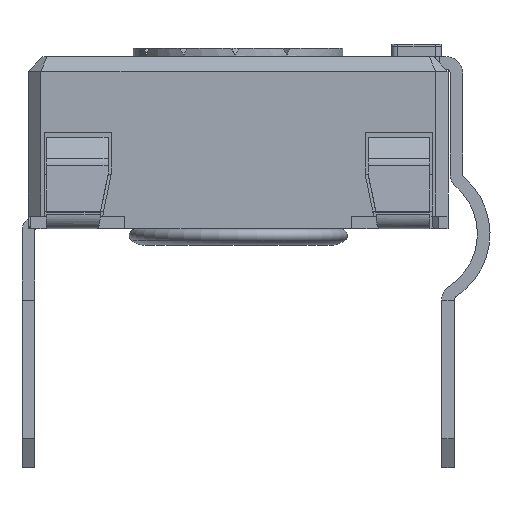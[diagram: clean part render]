
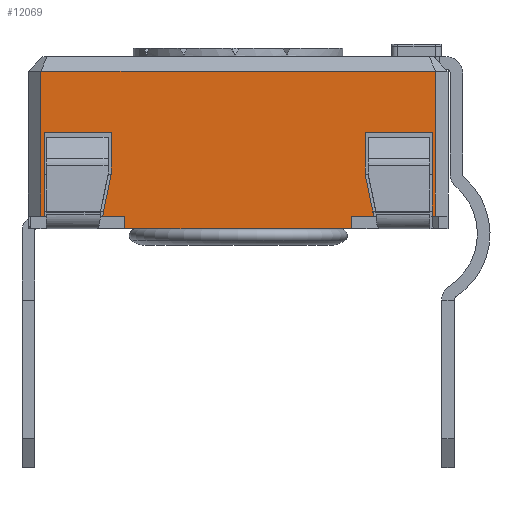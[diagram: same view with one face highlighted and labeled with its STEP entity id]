
A CAD part, left-side view. The second image highlights one B-rep face of the part: STEP entity #12069.
In plain terms, the highlighted planar face has unit normal (-1, 0, 0).
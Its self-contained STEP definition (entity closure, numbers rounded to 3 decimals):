
#977=FACE_OUTER_BOUND('',#1598,.T.);
#1598=EDGE_LOOP('',(#10152,#10153,#10154,#10155,#10156,#10157,#10158,#10159,
#10160,#10161,#10162,#10163,#10164,#10165,#10166,#10167,#10168,#10169));
#2431=LINE('',#18130,#3841);
#2462=LINE('',#18192,#3872);
#2468=LINE('',#18204,#3878);
#2489=LINE('',#18246,#3899);
#2659=LINE('',#18778,#4069);
#2702=LINE('',#18860,#4112);
#2705=LINE('',#18866,#4115);
#2854=LINE('',#19244,#4264);
#2856=LINE('',#19248,#4266);
#2860=LINE('',#19256,#4270);
#2863=LINE('',#19262,#4273);
#2870=LINE('',#19276,#4280);
#2872=LINE('',#19280,#4282);
#2878=LINE('',#19291,#4288);
#2879=LINE('',#19293,#4289);
#2880=LINE('',#19296,#4290);
#2881=LINE('',#19298,#4291);
#2882=LINE('',#19299,#4292);
#3841=VECTOR('',#14747,10.);
#3872=VECTOR('',#14782,10.);
#3878=VECTOR('',#14788,10.);
#3899=VECTOR('',#14811,10.);
#4069=VECTOR('',#15291,10.);
#4112=VECTOR('',#15366,10.);
#4115=VECTOR('',#15375,10.);
#4264=VECTOR('',#15742,10.);
#4266=VECTOR('',#15746,10.);
#4270=VECTOR('',#15752,10.);
#4273=VECTOR('',#15757,10.);
#4280=VECTOR('',#15772,10.);
#4282=VECTOR('',#15776,10.);
#4288=VECTOR('',#15788,10.);
#4289=VECTOR('',#15791,10.);
#4290=VECTOR('',#15794,10.);
#4291=VECTOR('',#15795,10.);
#4292=VECTOR('',#15796,10.);
#5145=VERTEX_POINT('',#18127);
#5146=VERTEX_POINT('',#18129);
#5174=VERTEX_POINT('',#18189);
#5175=VERTEX_POINT('',#18191);
#5180=VERTEX_POINT('',#18201);
#5181=VERTEX_POINT('',#18203);
#5200=VERTEX_POINT('',#18243);
#5201=VERTEX_POINT('',#18245);
#5353=VERTEX_POINT('',#18775);
#5354=VERTEX_POINT('',#18777);
#5473=VERTEX_POINT('',#19242);
#5474=VERTEX_POINT('',#19247);
#5477=VERTEX_POINT('',#19254);
#5479=VERTEX_POINT('',#19261);
#5482=VERTEX_POINT('',#19275);
#5483=VERTEX_POINT('',#19279);
#5486=VERTEX_POINT('',#19295);
#5487=VERTEX_POINT('',#19297);
#6541=EDGE_CURVE('',#5146,#5145,#2431,.T.);
#6572=EDGE_CURVE('',#5175,#5174,#2462,.T.);
#6578=EDGE_CURVE('',#5181,#5180,#2468,.T.);
#6599=EDGE_CURVE('',#5201,#5200,#2489,.T.);
#6847=EDGE_CURVE('',#5354,#5353,#2659,.T.);
#6890=EDGE_CURVE('',#5175,#5353,#2702,.T.);
#6893=EDGE_CURVE('',#5180,#5354,#2705,.T.);
#7079=EDGE_CURVE('',#5174,#5473,#2854,.T.);
#7081=EDGE_CURVE('',#5474,#5181,#2856,.T.);
#7085=EDGE_CURVE('',#5473,#5477,#2860,.T.);
#7088=EDGE_CURVE('',#5479,#5474,#2863,.T.);
#7095=EDGE_CURVE('',#5482,#5479,#2870,.T.);
#7097=EDGE_CURVE('',#5483,#5201,#2872,.T.);
#7103=EDGE_CURVE('',#5477,#5483,#2878,.T.);
#7104=EDGE_CURVE('',#5145,#5482,#2879,.T.);
#7105=EDGE_CURVE('',#5486,#5200,#2880,.T.);
#7106=EDGE_CURVE('',#5487,#5486,#2881,.T.);
#7107=EDGE_CURVE('',#5487,#5146,#2882,.T.);
#10152=ORIENTED_EDGE('',*,*,#7104,.T.);
#10153=ORIENTED_EDGE('',*,*,#7095,.T.);
#10154=ORIENTED_EDGE('',*,*,#7088,.T.);
#10155=ORIENTED_EDGE('',*,*,#7081,.T.);
#10156=ORIENTED_EDGE('',*,*,#6578,.T.);
#10157=ORIENTED_EDGE('',*,*,#6893,.T.);
#10158=ORIENTED_EDGE('',*,*,#6847,.T.);
#10159=ORIENTED_EDGE('',*,*,#6890,.F.);
#10160=ORIENTED_EDGE('',*,*,#6572,.T.);
#10161=ORIENTED_EDGE('',*,*,#7079,.T.);
#10162=ORIENTED_EDGE('',*,*,#7085,.T.);
#10163=ORIENTED_EDGE('',*,*,#7103,.T.);
#10164=ORIENTED_EDGE('',*,*,#7097,.T.);
#10165=ORIENTED_EDGE('',*,*,#6599,.T.);
#10166=ORIENTED_EDGE('',*,*,#7105,.F.);
#10167=ORIENTED_EDGE('',*,*,#7106,.F.);
#10168=ORIENTED_EDGE('',*,*,#7107,.T.);
#10169=ORIENTED_EDGE('',*,*,#6541,.T.);
#11256=PLANE('',#12974);
#12069=ADVANCED_FACE('',(#977),#11256,.T.);
#12974=AXIS2_PLACEMENT_3D('',#19294,#15792,#15793);
#14747=DIRECTION('',(0.,-1.,0.));
#14782=DIRECTION('',(0.,-1.,0.));
#14788=DIRECTION('',(0.,-1.,0.));
#14811=DIRECTION('',(0.,-1.,0.));
#15291=DIRECTION('',(0.,-1.,0.));
#15366=DIRECTION('',(0.,0.,-1.));
#15375=DIRECTION('',(0.,0.,-1.));
#15742=DIRECTION('',(0.,0.199,0.98));
#15746=DIRECTION('',(0.,0.199,-0.98));
#15752=DIRECTION('',(0.,0.,1.));
#15757=DIRECTION('',(0.,0.,-1.));
#15772=DIRECTION('',(0.,-1.,0.));
#15776=DIRECTION('',(0.,0.,-1.));
#15788=DIRECTION('',(0.,-1.,0.));
#15791=DIRECTION('',(0.,0.,1.));
#15792=DIRECTION('center_axis',(-1.,0.,0.));
#15793=DIRECTION('ref_axis',(0.,0.,1.));
#15794=DIRECTION('',(0.,0.,-1.));
#15795=DIRECTION('',(0.,-1.,0.));
#15796=DIRECTION('',(0.,0.,-1.));
#18127=CARTESIAN_POINT('',(-31.348,-8.365,-3.8));
#18129=CARTESIAN_POINT('',(-31.348,-8.29,-3.8));
#18130=CARTESIAN_POINT('',(-31.348,-17.69,-3.8));
#18189=CARTESIAN_POINT('',(-31.348,-16.219,-3.8));
#18191=CARTESIAN_POINT('',(-31.348,-15.69,-3.8));
#18192=CARTESIAN_POINT('',(-31.348,-9.762,-3.8));
#18201=CARTESIAN_POINT('',(-31.348,-10.29,-3.8));
#18203=CARTESIAN_POINT('',(-31.348,-9.762,-3.8));
#18204=CARTESIAN_POINT('',(-31.348,-9.762,-3.8));
#18243=CARTESIAN_POINT('',(-31.348,-17.69,-3.8));
#18245=CARTESIAN_POINT('',(-31.348,-17.615,-3.8));
#18246=CARTESIAN_POINT('',(-31.348,-17.69,-3.8));
#18775=CARTESIAN_POINT('',(-31.348,-15.69,-4.1));
#18777=CARTESIAN_POINT('',(-31.348,-10.29,-4.1));
#18778=CARTESIAN_POINT('',(-31.348,-16.219,-4.1));
#18860=CARTESIAN_POINT('',(-31.348,-15.69,-3.8));
#18866=CARTESIAN_POINT('',(-31.348,-10.29,-3.8));
#19242=CARTESIAN_POINT('',(-31.348,-16.015,-2.8));
#19244=CARTESIAN_POINT('',(-31.348,-16.219,-3.8));
#19247=CARTESIAN_POINT('',(-31.348,-9.965,-2.8));
#19248=CARTESIAN_POINT('',(-31.348,-9.965,-2.8));
#19254=CARTESIAN_POINT('',(-31.348,-16.015,-1.8));
#19256=CARTESIAN_POINT('',(-31.348,-16.015,-2.8));
#19261=CARTESIAN_POINT('',(-31.348,-9.965,-1.8));
#19262=CARTESIAN_POINT('',(-31.348,-9.965,-1.8));
#19275=CARTESIAN_POINT('',(-31.348,-8.365,-1.8));
#19276=CARTESIAN_POINT('',(-31.348,-10.64,-1.8));
#19279=CARTESIAN_POINT('',(-31.348,-17.615,-1.8));
#19280=CARTESIAN_POINT('',(-31.348,-17.615,-1.368));
#19291=CARTESIAN_POINT('',(-31.348,-10.64,-1.8));
#19293=CARTESIAN_POINT('',(-31.348,-8.365,-1.368));
#19294=CARTESIAN_POINT('Origin',(-31.348,-8.29,0.));
#19295=CARTESIAN_POINT('',(-31.348,-17.69,-0.35));
#19296=CARTESIAN_POINT('',(-31.348,-17.69,0.));
#19297=CARTESIAN_POINT('',(-31.348,-8.29,-0.35));
#19298=CARTESIAN_POINT('',(-31.348,-10.64,-0.35));
#19299=CARTESIAN_POINT('',(-31.348,-8.29,0.));
